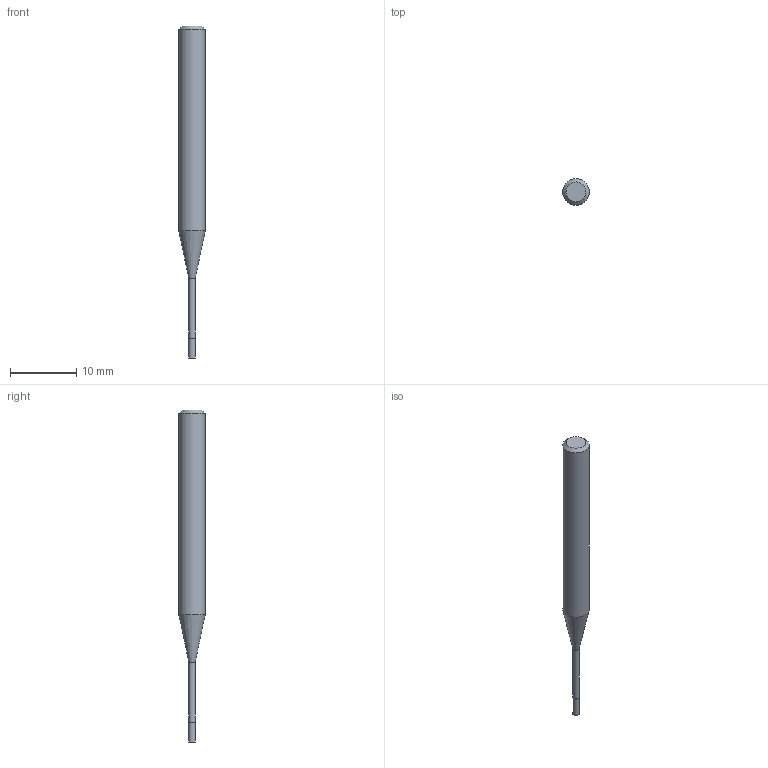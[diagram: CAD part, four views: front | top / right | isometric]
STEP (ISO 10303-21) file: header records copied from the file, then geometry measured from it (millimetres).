
FILE_DESCRIPTION((''),'2;1');
FILE_NAME('C:\Users\nsx150\Desktop\RSE230_20210427\01-00644-01012 RSE230 D1X3X12.step','2021-05-07T14:53:17',(''),(''),'STEP Write','Mastercam 2021 ... CNC Software, Inc.','');
FILE_SCHEMA(('AUTOMOTIVE_DESIGN'));
Length unit declared in the file: millimetre
Products named in the file (1): None
Bounding box: 4 x 4 x 50 mm (x, y, z)
Volume: 433.5 mm3; surface area: 491.5 mm2
Topology: 2 solids, 2 shells, 9 faces, 12 edges, 7 vertices
Faces by surface type: plane 4, cylinder 3, cone 2
Full cylindrical faces by diameter (mm): 0.95 x1, 1 x1, 4 x1
Entity records: 211 total; most frequent: DIRECTION 36, CARTESIAN_POINT 25, AXIS2_PLACEMENT_3D 18, ORIENTED_EDGE 14, EDGE_LOOP 14, STYLED_ITEM 12, ADVANCED_FACE 9, FACE_BOUND 8
